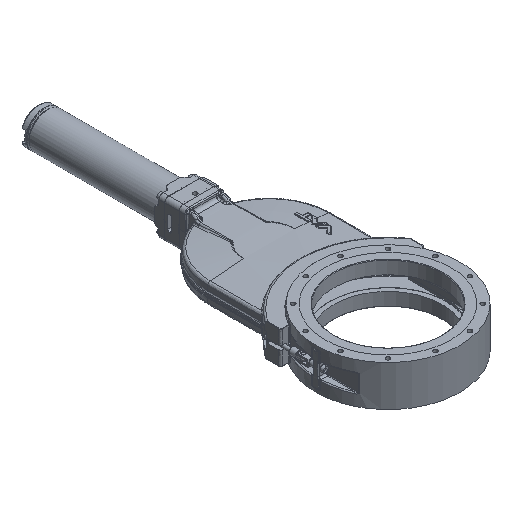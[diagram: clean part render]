
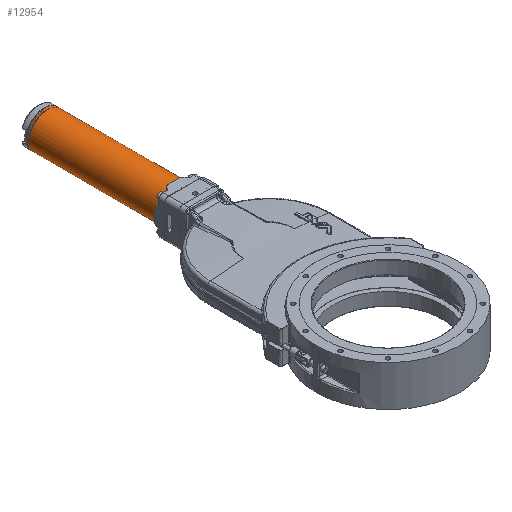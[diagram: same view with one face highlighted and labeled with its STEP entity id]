
A CAD part, isometric view. The second image highlights one B-rep face of the part: STEP entity #12954.
In plain terms, the highlighted free-form (B-spline) face has degree [2, 1] with [7, 2] control points.
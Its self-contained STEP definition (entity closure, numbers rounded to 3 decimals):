
#12879=CARTESIAN_POINT('V7',(53.,-60.5,
   0.));
#12880=VERTEX_POINT('V7',#12879);
#12881=CARTESIAN_POINT('E21',(53.,-60.5,
   0.));
#12882=CARTESIAN_POINT('E21',(53.,-60.5,
   91.799));
#12883=CARTESIAN_POINT('E21',(-26.5,
   -60.5,45.899));
#12884=CARTESIAN_POINT('E21',(-106.,
   -60.5,0.));
#12885=CARTESIAN_POINT('E21',(-26.5,
   -60.5,-45.899));
#12886=CARTESIAN_POINT('E21',(53.,-60.5,
   -91.799));
#12887=CARTESIAN_POINT('E21',(53.,-60.5,
   0.));
#12895=(BOUNDED_CURVE()B_SPLINE_CURVE(2,(#12881,#12882,#12883,
   #12884,#12885,#12886,#12887),.CIRCULAR_ARC.,.T.,.U.)
   B_SPLINE_CURVE_WITH_KNOTS((3,2,2,3),(0.0,0.333,
   0.667,1.0),.UNSPECIFIED.)CURVE()
   GEOMETRIC_REPRESENTATION_ITEM()RATIONAL_B_SPLINE_CURVE((1.0,
   0.5,1.0,0.5,1.0,0.5,1.0)
   )REPRESENTATION_ITEM('E21'));
#12896=EDGE_CURVE('E21',#12880,#12880,#12895,.T.);
#12904=CARTESIAN_POINT('F7',(53.,-466.108,
   0.));
#12905=CARTESIAN_POINT('F7',(53.,-466.108,
   -91.799));
#12906=CARTESIAN_POINT('F7',(-26.5,
   -466.108,-45.899));
#12907=CARTESIAN_POINT('F7',(-106.,
   -466.108,0.));
#12908=CARTESIAN_POINT('F7',(-26.5,
   -466.108,45.899));
#12909=CARTESIAN_POINT('F7',(53.,-466.108,
   91.799));
#12910=CARTESIAN_POINT('F7',(53.,-466.108,
   0.));
#12911=CARTESIAN_POINT('F7',(53.,-60.5,
   0.));
#12912=CARTESIAN_POINT('F7',(53.,-60.5,
   -91.799));
#12913=CARTESIAN_POINT('F7',(-26.5,-60.5,
   -45.899));
#12914=CARTESIAN_POINT('F7',(-106.,
   -60.5,0.));
#12915=CARTESIAN_POINT('F7',(-26.5,-60.5,
   45.899));
#12916=CARTESIAN_POINT('F7',(53.,-60.5,
   91.799));
#12917=CARTESIAN_POINT('F7',(53.,-60.5,
   0.));
#12925=(BOUNDED_SURFACE()B_SPLINE_SURFACE(2,1,((#12904,#12911),(
   #12905,#12912),(#12906,#12913),(#12907,#12914),(#12908,
   #12915),(#12909,#12916),(#12910,#12917)),.CYLINDRICAL_SURF.,
   .T.,.F.,.U.)B_SPLINE_SURFACE_WITH_KNOTS((3,2,2,3),(2,2),(0.0,
   0.453,0.905,1.358),(0.0,1.0),
   .UNSPECIFIED.)GEOMETRIC_REPRESENTATION_ITEM()
   RATIONAL_B_SPLINE_SURFACE(((1.0,1.0),(0.5,
   0.5),(1.0,1.0),(0.5,
   0.5),(1.0,1.0),(0.5,
   0.5),(1.0,1.0)))REPRESENTATION_ITEM('F7')SURFACE()
   );
#12926=CARTESIAN_POINT('V8',(53.,-466.108,
   0.));
#12927=VERTEX_POINT('V8',#12926);
#12928=CARTESIAN_POINT('E8',(53.,-60.5,
   0.0));
#12929=CARTESIAN_POINT('E8',(53.,-466.108,
   0.0));
#12930=QUASI_UNIFORM_CURVE('E8',1,(#12928,#12929),.POLYLINE_FORM.,
   .F.,.U.);
#12931=EDGE_CURVE('E8',#12880,#12927,#12930,.T.);
#12932=ORIENTED_EDGE('E8',*,*,#12931,.F.);
#12933=ORIENTED_EDGE('F6',*,*,#12896,.F.);
#12934=ORIENTED_EDGE('E8',*,*,#12931,.T.);
#12935=CARTESIAN_POINT('E22',(53.,
   -466.108,0.));
#12936=CARTESIAN_POINT('E22',(53.,
   -466.108,-91.799));
#12937=CARTESIAN_POINT('E22',(-26.5,
   -466.108,-45.899));
#12938=CARTESIAN_POINT('E22',(-106.,
   -466.108,0.));
#12939=CARTESIAN_POINT('E22',(-26.5,
   -466.108,45.899));
#12940=CARTESIAN_POINT('E22',(53.,
   -466.108,91.799));
#12941=CARTESIAN_POINT('E22',(53.,
   -466.108,0.));
#12949=(BOUNDED_CURVE()B_SPLINE_CURVE(2,(#12935,#12936,#12937,
   #12938,#12939,#12940,#12941),.CIRCULAR_ARC.,.T.,.U.)
   B_SPLINE_CURVE_WITH_KNOTS((3,2,2,3),(0.0,0.453,
   0.905,1.358),.UNSPECIFIED.)CURVE()
   GEOMETRIC_REPRESENTATION_ITEM()RATIONAL_B_SPLINE_CURVE((1.0,
   0.5,1.0,0.5,1.0,0.5,1.0)
   )REPRESENTATION_ITEM('E22'));
#12950=EDGE_CURVE('E22',#12927,#12927,#12949,.T.);
#12951=ORIENTED_EDGE('E22',*,*,#12950,.F.);
#12952=EDGE_LOOP('F7',(#12932,#12933,#12934,#12951));
#12953=FACE_OUTER_BOUND('F7',#12952,.F.);
#12954=ADVANCED_FACE('F7',(#12953),#12925,.T.);
